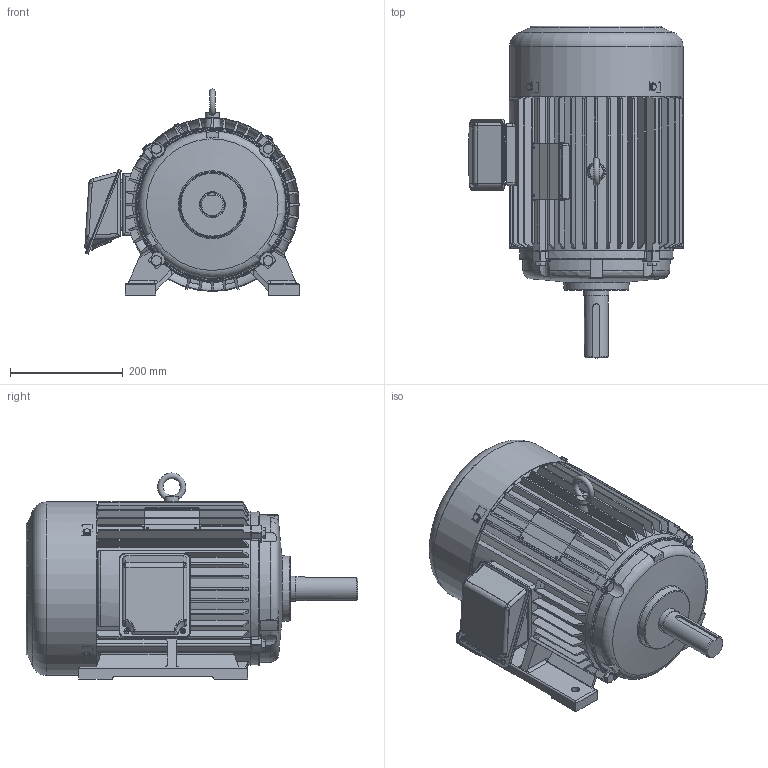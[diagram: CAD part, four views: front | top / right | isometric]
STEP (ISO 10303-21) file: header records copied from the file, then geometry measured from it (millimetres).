
FILE_DESCRIPTION(/* description */ ('Unknown'),/* implementation_level */ '2;1');
FILE_NAME(/* name */ '1-SMA-31985_외형도(260DIA)',/* time_stamp */ '2026-07-24T08:18:44+09:00',/* author */ ('Unknown'),/* organization */ ('Unknown'),/* preprocessor_version */ 'ST-DEVELOPER v16',/* originating_system */ 'DEX',/* authorisation */ $);
FILE_SCHEMA (('AUTOMOTIVE_DESIGN {1 0 10303 214 3 1 1}'));
Length unit declared in the file: millimetre
Products named in the file (21): 1-SMA-31985_¿ÜÇüµµ(260DIxÆÖÄ³(; 2-SMA-31032_FRAME(260DIA); 3-SMA-31033_擅粽塭鰍(260D; 4-SMA-31034_µÚºê¶óÄÏ(260D´¾|·Ï(; 5-SMA-31035_SHAFT(260DIA); 6-SMA-31245_FAN(248, 260DIA); 7-SMA-31036_FAN COVER(260DIA); ﾀｰｰ｢ｺｼﾆｮ M10x1.5xｭ費; 幫陝 M6x1x10; I獐お M12x1.75x22; 貲っ 98x6>橘; 葬漯 2.3x45; 5.5~15kW(7.5~20HPO)_攪嘐割 夢蝶(205~260; 8-SMA-33050_T-BOX(鼻)(205~260DIA); 9-SMA-33051_T-BOX(ж)(205~260DIA); 褊濠 菅斬 該葬 獐お M5x; T-BOX 歜衛 馨檜綰斜楠萄(205~傽(; 蹴辨 S3; T-BOX ｾﾐﾆﾇ(205~260DIA) V; 6309ZZ; 6308ZZ
Assembly tree (33 placements, depth 3):
  1-SMA-31985_¿ÜÇüµµ(260DIxÆÖÄ³(
    2-SMA-31032_FRAME(260DIA)
    3-SMA-31033_擅粽塭鰍(260D
    4-SMA-31034_µÚºê¶óÄÏ(260D´¾|·Ï(
    5-SMA-31035_SHAFT(260DIA)
    6-SMA-31245_FAN(248, 260DIA)
    7-SMA-31036_FAN COVER(260DIA)
    ﾀｰｰ｢ｺｼﾆｮ M10x1.5xｭ費  x7
    幫陝 M6x1x10  x4
    I獐お M12x1.75x22
    貲っ 98x6>橘
    葬漯 2.3x45  x4
    5.5~15kW(7.5~20HPO)_攪嘐割 夢蝶(205~260
      8-SMA-33050_T-BOX(鼻)(205~260DIA)
      9-SMA-33051_T-BOX(ж)(205~260DIA)
      褊濠 菅斬 該葬 獐お M5x  x2
      T-BOX 歜衛 馨檜綰斜楠萄(205~傽(
    蹴辨 S3
    T-BOX ｾﾐﾆﾇ(205~260DIA) V
    6309ZZ
    6308ZZ
Bounding box: 379.99 x 587.99 x 364.99 mm (x, y, z)
Volume: 6357385.6 mm3; surface area: 2170651.2 mm2
Topology: 55 solids, 57 shells, 2200 faces, 5668 edges, 3597 vertices
Faces by surface type: plane 733, cylinder 628, cone 435, torus 204, bspline 178, sphere 22
Full cylindrical faces by diameter (mm): 2.2 x8, 2.3 x4, 2.5 x2, 4.134 x2, 4.917 x2, 5 x2, 6 x10, 6.6 x4, 7 x2, 8 x2, 8.376 x16, 9 x2, 10 x20, 10.106 x1, 12 x6, 14 x4, 15 x4, 25 x1, 35 x4, 39.8 x1, 40 x4, 40.8 x1, 42 x1, 44.8 x1, 45 x2, 45.8 x1, 46.1 x1, 49 x1, 53 x1, 54.286 x2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
Entity records: 89366 total; most frequent: CARTESIAN_POINT 38592, ORIENTED_EDGE 9708, DIRECTION 9099, EDGE_CURVE 4854, AXIS2_PLACEMENT_3D 3702, VERTEX_POINT 3216, FACE_BOUND 2388, EDGE_LOOP 2359
